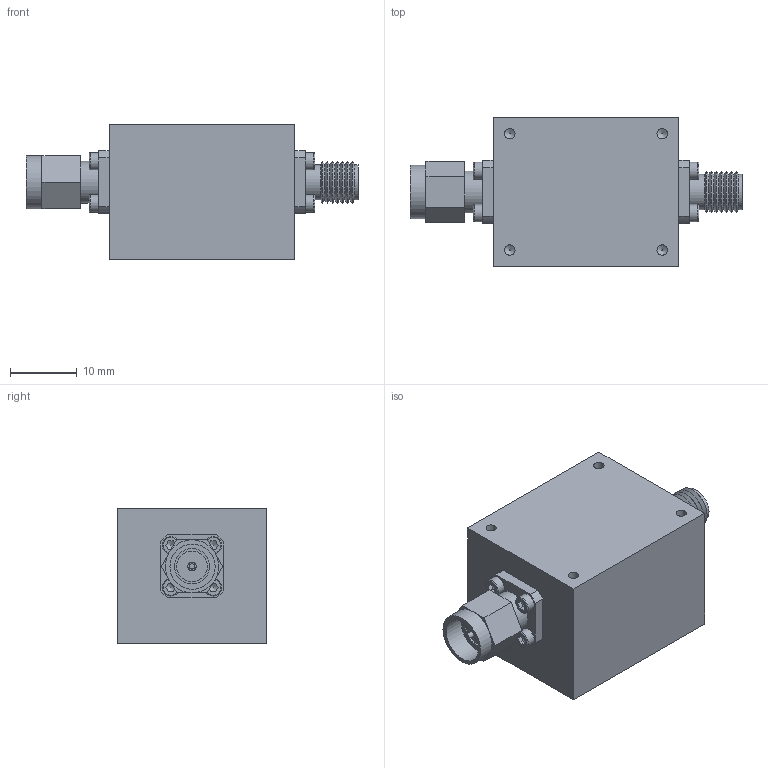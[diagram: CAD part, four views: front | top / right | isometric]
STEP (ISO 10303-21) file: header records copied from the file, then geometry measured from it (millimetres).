
FILE_DESCRIPTION(/* description */ ('Unknown'),/* implementation_level */ '2;1');
FILE_NAME(/* name */ 'DETI_MICROWAVE_HIGHPASS_FILTER_800175_STEP',/* time_stamp */ '2022-05-05T14:10:27+02:00',/* author */ ('Unknown'),/* organization */ ('Unknown'),/* preprocessor_version */ 'ST-DEVELOPER v18.1',/* originating_system */ 'Solid Edge',/* authorisation */ 'Unknown');
FILE_SCHEMA (('AUTOMOTIVE_DESIGN {1 0 10303 214 3 1 1}'));
Length unit declared in the file: millimetre
Products named in the file (1): DETI_MICROWAVE_HIGHPASS_FILTER_800175_STEP
Bounding box: 49.9 x 22.5 x 20.4 mm (x, y, z)
Volume: 12459.1 mm3; surface area: 6449.4 mm2
Topology: 1 solids, 18 shells, 477 faces, 1150 edges, 762 vertices
Faces by surface type: plane 278, cylinder 109, cone 74, torus 16
Full cylindrical faces by diameter (mm): 0.8 x1, 1.1 x1, 1.221 x8, 1.27 x4, 1.4 x8, 1.567 x12, 1.625 x2, 1.8 x8, 2 x16, 2.2 x8, 2.6 x8, 3.8 x8, 4.1 x2, 4.6 x2, 5.3 x3, 6.3 x1, 6.8 x1, 8 x1
Entity records: 15404 total; most frequent: CARTESIAN_POINT 2184, DIRECTION 2036, ORIENTED_EDGE 1700, EDGE_CURVE 850, AXIS2_PLACEMENT_3D 764, FACE_BOUND 746, EDGE_LOOP 728, VERTEX_POINT 662
